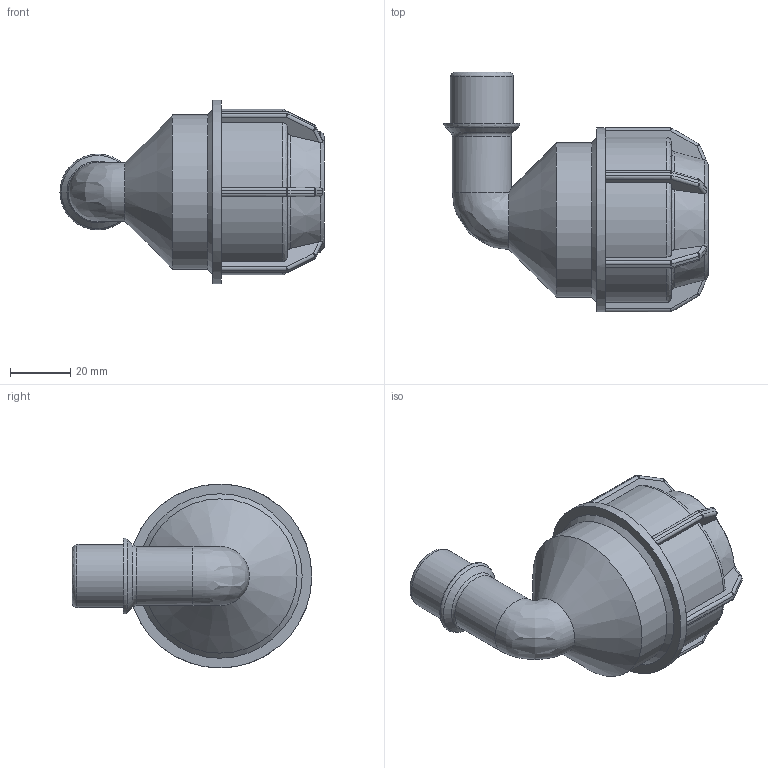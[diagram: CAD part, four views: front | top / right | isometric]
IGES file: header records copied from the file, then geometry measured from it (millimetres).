
Global section: file name: 148500032005.ipt; native system: Autodesk Inventor 2015; preprocessor: unknown; author: KIM; date: 20180409.131246; units: millimetre
Bounding box: 87.57 x 79.5 x 61 mm (x, y, z)
Volume: 82185.8 mm3; surface area: 27666.6 mm2
Topology: 1 solids, 1 shells, 213 faces, 514 edges, 300 vertices
Faces by surface type: plane 98, cylinder 59, sphere 24, revolution 22, cone 9, bspline 1
Full cylindrical faces by diameter (mm): 19.593 x1, 20.955 x1, 25.146 x1, 51.2 x1, 61 x1
